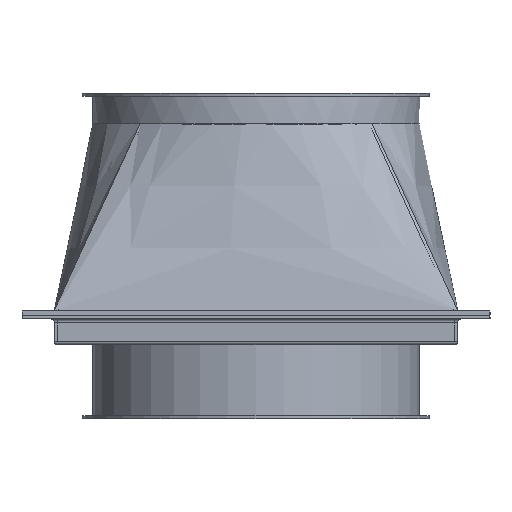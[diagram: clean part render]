
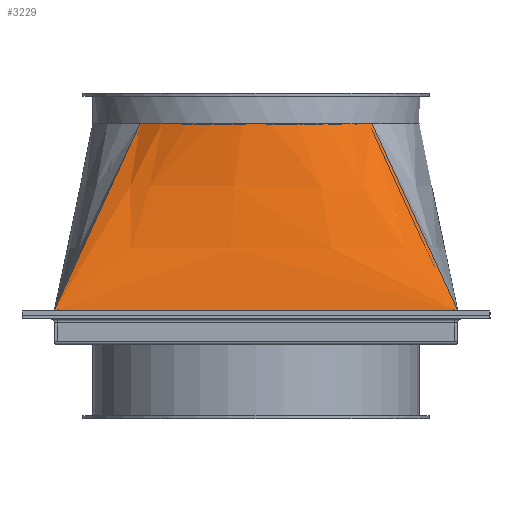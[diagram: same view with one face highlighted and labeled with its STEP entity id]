
A CAD part, left-side view. The second image highlights one B-rep face of the part: STEP entity #3229.
In plain terms, the highlighted free-form (B-spline) face has degree [3, 3] with [8, 4] control points.
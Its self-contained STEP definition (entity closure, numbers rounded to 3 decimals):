
#2472=CARTESIAN_POINT('',(0.0,0.0,0.0));
#2473=VERTEX_POINT('',#2472);
#2482=CARTESIAN_POINT('',(0.,250.0,0.0));
#2483=VERTEX_POINT('',#2482);
#2484=CARTESIAN_POINT('',(0.,250.0,0.0));
#2485=DIRECTION('',(0.0,-1.0,0.0));
#2486=VECTOR('',#2485,250.0);
#2487=LINE('',#2484,#2486);
#2488=EDGE_CURVE('',#2483,#2473,#2487,.T.);
#3157=CARTESIAN_POINT('',(-53.229,53.229,-116.0));
#3158=VERTEX_POINT('',#3157);
#3166=CARTESIAN_POINT('',(0.0,0.0,0.0));
#3167=CARTESIAN_POINT('',(-17.743,17.743,-38.667));
#3168=CARTESIAN_POINT('',(-35.486,35.486,-77.333));
#3169=CARTESIAN_POINT('',(-53.229,53.229,-116.0));
#3170=QUASI_UNIFORM_CURVE('',3,(#3166,#3167,#3168,#3169),.UNSPECIFIED.,.F.,.U.);
#3171=EDGE_CURVE('',#2473,#3158,#3170,.T.);
#3176=CARTESIAN_POINT('',(0.0,0.0,0.0));
#3177=CARTESIAN_POINT('',(0.,11.905,0.0));
#3178=CARTESIAN_POINT('',(0.,35.714,0.0));
#3179=CARTESIAN_POINT('',(0.,83.333,0.0));
#3180=CARTESIAN_POINT('',(0.,142.857,0.0));
#3181=CARTESIAN_POINT('',(0.,202.381,0.0));
#3182=CARTESIAN_POINT('',(0.,238.095,0.0));
#3183=CARTESIAN_POINT('',(0.,250.0,0.0));
#3184=CARTESIAN_POINT('',(-17.743,17.743,-38.667));
#3185=CARTESIAN_POINT('',(-15.95,27.468,-38.667));
#3186=CARTESIAN_POINT('',(-12.782,47.326,-38.667));
#3187=CARTESIAN_POINT('',(-8.349,88.245,-38.667));
#3188=CARTESIAN_POINT('',(-6.896,140.822,-38.667));
#3189=CARTESIAN_POINT('',(-11.182,192.754,-38.667));
#3190=CARTESIAN_POINT('',(-15.956,222.529,-38.667));
#3191=CARTESIAN_POINT('',(-17.743,232.257,-38.667));
#3192=CARTESIAN_POINT('',(-35.486,35.486,-77.333));
#3193=CARTESIAN_POINT('',(-31.91,43.034,-77.333));
#3194=CARTESIAN_POINT('',(-25.559,58.935,-77.333));
#3195=CARTESIAN_POINT('',(-16.705,93.159,-77.333));
#3196=CARTESIAN_POINT('',(-13.787,138.789,-77.333));
#3197=CARTESIAN_POINT('',(-22.369,183.123,-77.333));
#3198=CARTESIAN_POINT('',(-31.904,206.969,-77.333));
#3199=CARTESIAN_POINT('',(-35.486,214.514,-77.333));
#3200=CARTESIAN_POINT('',(-53.229,53.229,-116.0));
#3201=CARTESIAN_POINT('',(-47.86,58.597,-116.0));
#3202=CARTESIAN_POINT('',(-38.342,70.547,-116.));
#3203=CARTESIAN_POINT('',(-25.054,98.071,-116.));
#3204=CARTESIAN_POINT('',(-20.684,136.753,-116.));
#3205=CARTESIAN_POINT('',(-33.55,173.495,-116.));
#3206=CARTESIAN_POINT('',(-47.86,191.403,-116.0));
#3207=CARTESIAN_POINT('',(-53.229,196.771,-116.0));
#3208=B_SPLINE_SURFACE_WITH_KNOTS('',3,3,((#3176,#3184,#3192,#3200),(#3177,#3185,#3193,#3201),(#3178,#3186,#3194,#3202),(#3179,#3187,#3195,#3203),(#3180,#3188,#3196,#3204),(#3181,#3189,#3197,#3205),(#3182,#3190,#3198,#3206),(#3183,#3191,#3199,#3207)),.UNSPECIFIED.,.F.,.F.,.U.,(4,1,1,1,1,4),(4,4),(0.0,0.143,0.286,0.571,0.857,1.0),(0.0,1.0),.UNSPECIFIED.);
#3209=ORIENTED_EDGE('',*,*,#2488,.T.);
#3210=ORIENTED_EDGE('',*,*,#3171,.T.);
#3211=CARTESIAN_POINT('',(-53.229,196.771,-116.0));
#3212=VERTEX_POINT('',#3211);
#3213=CARTESIAN_POINT('',(-125.,125.,-116.0));
#3214=DIRECTION('',(0.0,0.0,-1.0));
#3215=DIRECTION('',(1.0,0.0,0.0));
#3216=AXIS2_PLACEMENT_3D('',#3213,#3214,#3215);
#3217=CIRCLE('',#3216,101.5);
#3218=EDGE_CURVE('',#3212,#3158,#3217,.T.);
#3219=ORIENTED_EDGE('',*,*,#3218,.F.);
#3220=CARTESIAN_POINT('',(0.,250.0,0.0));
#3221=CARTESIAN_POINT('',(-17.743,232.257,-38.667));
#3222=CARTESIAN_POINT('',(-35.486,214.514,-77.333));
#3223=CARTESIAN_POINT('',(-53.229,196.771,-116.0));
#3224=QUASI_UNIFORM_CURVE('',3,(#3220,#3221,#3222,#3223),.UNSPECIFIED.,.F.,.U.);
#3225=EDGE_CURVE('',#2483,#3212,#3224,.T.);
#3226=ORIENTED_EDGE('',*,*,#3225,.F.);
#3227=EDGE_LOOP('',(#3209,#3210,#3219,#3226));
#3228=FACE_OUTER_BOUND('',#3227,.T.);
#3229=ADVANCED_FACE('',(#3228),#3208,.F.);
